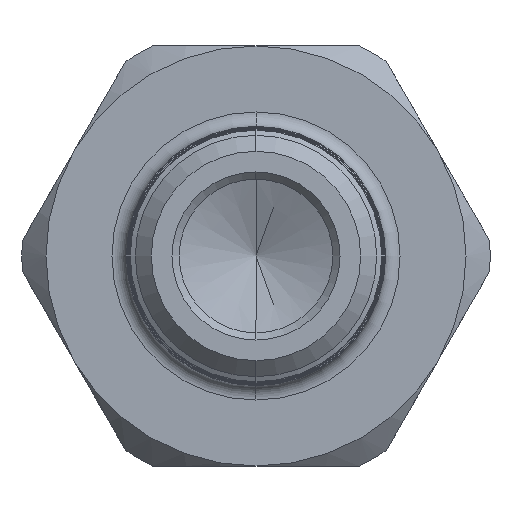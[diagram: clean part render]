
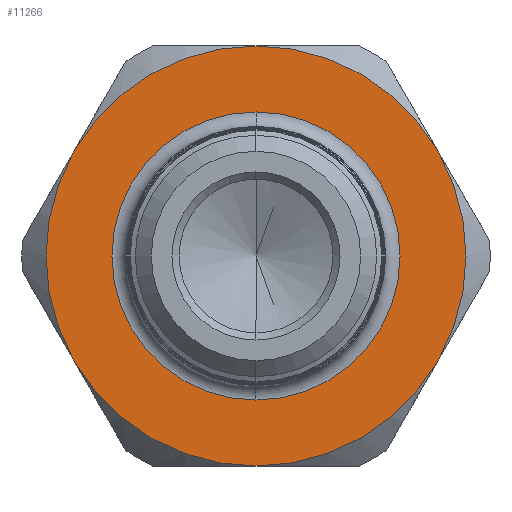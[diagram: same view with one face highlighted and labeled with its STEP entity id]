
A CAD part, left-side view. The second image highlights one B-rep face of the part: STEP entity #11266.
In plain terms, the highlighted planar face has unit normal (-1, 0, 0).
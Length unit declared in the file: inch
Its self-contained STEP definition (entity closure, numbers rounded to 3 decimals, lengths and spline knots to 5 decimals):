
#39 = ORIENTED_EDGE ( 'NONE', *, *, #13699, .T. ) ;
#49 = CIRCLE ( 'NONE', #1950, 0.3 ) ;
#322 = EDGE_CURVE ( 'NONE', #6967, #11741, #12229, .T. ) ;
#509 = VERTEX_POINT ( 'NONE', #7346 ) ;
#769 = CIRCLE ( 'NONE', #4814, 0.4375 ) ;
#833 = DIRECTION ( 'NONE',  ( 1., 0., 0. ) ) ;
#1132 = ORIENTED_EDGE ( 'NONE', *, *, #8895, .T. ) ;
#1213 = AXIS2_PLACEMENT_3D ( 'NONE', #7414, #11799, #1752 ) ;
#1752 = DIRECTION ( 'NONE',  ( 0., 0., 1. ) ) ;
#1950 = AXIS2_PLACEMENT_3D ( 'NONE', #4121, #833, #10750 ) ;
#2141 = FACE_BOUND ( 'NONE', #10606, .T. ) ;
#2292 = DIRECTION ( 'NONE',  ( -1., 0., 0. ) ) ;
#3485 = DIRECTION ( 'NONE',  ( 1., 0., 0. ) ) ;
#4121 = CARTESIAN_POINT ( 'NONE',  ( 0.585, 0., 0. ) ) ;
#4457 = CARTESIAN_POINT ( 'NONE',  ( 0.585, 0., 0. ) ) ;
#4814 = AXIS2_PLACEMENT_3D ( 'NONE', #6127, #13857, #12964 ) ;
#5027 = VERTEX_POINT ( 'NONE', #13429 ) ;
#5033 = CIRCLE ( 'NONE', #1213, 0.4375 ) ;
#5118 = AXIS2_PLACEMENT_3D ( 'NONE', #7453, #11988, #8494 ) ;
#5223 = AXIS2_PLACEMENT_3D ( 'NONE', #8415, #7449, #9455 ) ;
#5343 = VERTEX_POINT ( 'NONE', #12208 ) ;
#5391 = ORIENTED_EDGE ( 'NONE', *, *, #13574, .T. ) ;
#5527 = DIRECTION ( 'NONE',  ( -1., 0., 0. ) ) ;
#5649 = EDGE_CURVE ( 'NONE', #12370, #8170, #6149, .T. ) ;
#5714 = ORIENTED_EDGE ( 'NONE', *, *, #8006, .T. ) ;
#6127 = CARTESIAN_POINT ( 'NONE',  ( 0.585, 0., 0. ) ) ;
#6149 = CIRCLE ( 'NONE', #7093, 0.3 ) ;
#6225 = AXIS2_PLACEMENT_3D ( 'NONE', #14426, #13323, #8942 ) ;
#6686 = FACE_OUTER_BOUND ( 'NONE', #12335, .T. ) ;
#6688 = CIRCLE ( 'NONE', #6225, 0.4375 ) ;
#6894 = ORIENTED_EDGE ( 'NONE', *, *, #5649, .T. ) ;
#6967 = VERTEX_POINT ( 'NONE', #13813 ) ;
#7093 = AXIS2_PLACEMENT_3D ( 'NONE', #9161, #3485, #8033 ) ;
#7346 = CARTESIAN_POINT ( 'NONE',  ( 0.585, 0., -0.4375 ) ) ;
#7414 = CARTESIAN_POINT ( 'NONE',  ( 0.585, 0., 0. ) ) ;
#7440 = ORIENTED_EDGE ( 'NONE', *, *, #322, .T. ) ;
#7449 = DIRECTION ( 'NONE',  ( -1., 0., 0. ) ) ;
#7453 = CARTESIAN_POINT ( 'NONE',  ( 0.585, 0., 0. ) ) ;
#7957 = DIRECTION ( 'NONE',  ( 0., 0., 1. ) ) ;
#8006 = EDGE_CURVE ( 'NONE', #13368, #5027, #11609, .T. ) ;
#8033 = DIRECTION ( 'NONE',  ( 0., 0., 1. ) ) ;
#8170 = VERTEX_POINT ( 'NONE', #8936 ) ;
#8415 = CARTESIAN_POINT ( 'NONE',  ( 0.585, 0., 0. ) ) ;
#8494 = DIRECTION ( 'NONE',  ( 0., 0., 1. ) ) ;
#8798 = CARTESIAN_POINT ( 'NONE',  ( 0.585, 0., 0. ) ) ;
#8895 = EDGE_CURVE ( 'NONE', #509, #6967, #5033, .T. ) ;
#8936 = CARTESIAN_POINT ( 'NONE',  ( 0.585, 0., 0.3 ) ) ;
#8942 = DIRECTION ( 'NONE',  ( 0., 0., 1. ) ) ;
#9113 = ORIENTED_EDGE ( 'NONE', *, *, #9117, .T. ) ;
#9117 = EDGE_CURVE ( 'NONE', #5027, #5343, #10272, .T. ) ;
#9121 = EDGE_CURVE ( 'NONE', #11741, #13368, #6688, .T. ) ;
#9161 = CARTESIAN_POINT ( 'NONE',  ( 0.585, 0., 0. ) ) ;
#9455 = DIRECTION ( 'NONE',  ( 0., 0., 1. ) ) ;
#9698 = CARTESIAN_POINT ( 'NONE',  ( 0.585, -0.37889, 0.21875 ) ) ;
#10272 = CIRCLE ( 'NONE', #11929, 0.4375 ) ;
#10410 = CARTESIAN_POINT ( 'NONE',  ( 0.585, 0., -0.3 ) ) ;
#10606 = EDGE_LOOP ( 'NONE', ( #39, #6894 ) ) ;
#10750 = DIRECTION ( 'NONE',  ( 0., 0., 1. ) ) ;
#10911 = ORIENTED_EDGE ( 'NONE', *, *, #9121, .T. ) ;
#11239 = PLANE ( 'NONE',  #14433 ) ;
#11266 = ADVANCED_FACE ( 'NONE', ( #2141, #6686 ), #11239, .T. ) ;
#11609 = CIRCLE ( 'NONE', #5223, 0.4375 ) ;
#11741 = VERTEX_POINT ( 'NONE', #9698 ) ;
#11799 = DIRECTION ( 'NONE',  ( -1., 0., 0. ) ) ;
#11929 = AXIS2_PLACEMENT_3D ( 'NONE', #8798, #5527, #14503 ) ;
#11988 = DIRECTION ( 'NONE',  ( -1., 0., 0. ) ) ;
#12208 = CARTESIAN_POINT ( 'NONE',  ( 0.585, 0.37889, -0.21875 ) ) ;
#12229 = CIRCLE ( 'NONE', #5118, 0.4375 ) ;
#12335 = EDGE_LOOP ( 'NONE', ( #1132, #7440, #10911, #5714, #9113, #5391 ) ) ;
#12370 = VERTEX_POINT ( 'NONE', #10410 ) ;
#12964 = DIRECTION ( 'NONE',  ( 0., 0., 1. ) ) ;
#13323 = DIRECTION ( 'NONE',  ( -1., 0., 0. ) ) ;
#13368 = VERTEX_POINT ( 'NONE', #14537 ) ;
#13429 = CARTESIAN_POINT ( 'NONE',  ( 0.585, 0.37889, 0.21875 ) ) ;
#13574 = EDGE_CURVE ( 'NONE', #5343, #509, #769, .T. ) ;
#13699 = EDGE_CURVE ( 'NONE', #8170, #12370, #49, .T. ) ;
#13813 = CARTESIAN_POINT ( 'NONE',  ( 0.585, -0.37889, -0.21875 ) ) ;
#13857 = DIRECTION ( 'NONE',  ( -1., 0., 0. ) ) ;
#14426 = CARTESIAN_POINT ( 'NONE',  ( 0.585, 0., 0. ) ) ;
#14433 = AXIS2_PLACEMENT_3D ( 'NONE', #4457, #2292, #7957 ) ;
#14503 = DIRECTION ( 'NONE',  ( 0., 0., 1. ) ) ;
#14537 = CARTESIAN_POINT ( 'NONE',  ( 0.585, 0., 0.4375 ) ) ;
